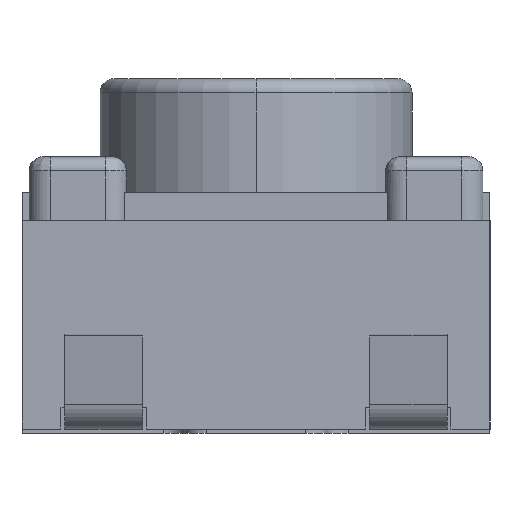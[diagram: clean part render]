
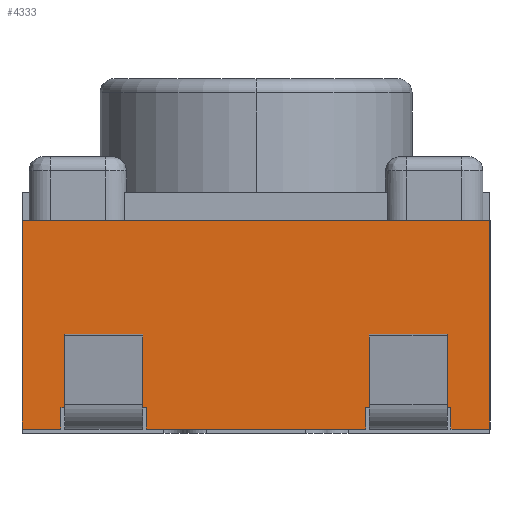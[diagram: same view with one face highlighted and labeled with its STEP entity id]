
A CAD part, left-side view. The second image highlights one B-rep face of the part: STEP entity #4333.
In plain terms, the highlighted planar face has unit normal (-1, 0, 0).
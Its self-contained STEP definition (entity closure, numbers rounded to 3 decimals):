
#1473=DIRECTION('',(0.,-1.,0.));
#1474=VECTOR('',#1473,3.3);
#1475=CARTESIAN_POINT('',(-2.1,1.65,0.));
#1476=LINE('',#1475,#1474);
#1770=DIRECTION('',(0.,0.,1.));
#1771=VECTOR('',#1770,1.47);
#1772=CARTESIAN_POINT('',(-2.1,1.65,-1.47));
#1773=LINE('',#1772,#1771);
#1791=DIRECTION('',(0.,1.,0.));
#1792=VECTOR('',#1791,0.6);
#1793=CARTESIAN_POINT('',(-2.1,-1.375,-1.32));
#1794=LINE('',#1793,#1792);
#1798=DIRECTION('',(0.,0.,1.));
#1799=VECTOR('',#1798,0.15);
#1800=CARTESIAN_POINT('',(-2.1,-0.775,-1.47));
#1801=LINE('',#1800,#1799);
#1805=DIRECTION('',(0.,0.,1.));
#1806=VECTOR('',#1805,0.15);
#1807=CARTESIAN_POINT('',(-2.1,0.775,-1.47));
#1808=LINE('',#1807,#1806);
#1812=DIRECTION('',(0.,1.,0.));
#1813=VECTOR('',#1812,0.6);
#1814=CARTESIAN_POINT('',(-2.1,0.775,-1.32));
#1815=LINE('',#1814,#1813);
#1819=DIRECTION('',(0.,0.,1.));
#1820=VECTOR('',#1819,0.15);
#1821=CARTESIAN_POINT('',(-2.1,1.375,-1.47));
#1822=LINE('',#1821,#1820);
#1826=DIRECTION('',(0.,0.,1.));
#1827=VECTOR('',#1826,0.15);
#1828=CARTESIAN_POINT('',(-2.1,-1.375,-1.47));
#1829=LINE('',#1828,#1827);
#2377=DIRECTION('',(0.,1.,0.));
#2378=VECTOR('',#2377,0.275);
#2379=CARTESIAN_POINT('',(-2.1,1.375,-1.47));
#2380=LINE('',#2379,#2378);
#2391=DIRECTION('',(0.,1.,0.));
#2392=VECTOR('',#2391,1.55);
#2393=CARTESIAN_POINT('',(-2.1,-0.775,-1.47));
#2394=LINE('',#2393,#2392);
#2479=DIRECTION('',(0.,1.,0.));
#2480=VECTOR('',#2479,0.275);
#2481=CARTESIAN_POINT('',(-2.1,-1.65,-1.47));
#2482=LINE('',#2481,#2480);
#2528=DIRECTION('',(0.,0.,-1.));
#2529=VECTOR('',#2528,1.47);
#2530=CARTESIAN_POINT('',(-2.1,-1.65,0.));
#2531=LINE('',#2530,#2529);
#3594=CARTESIAN_POINT('',(-2.1,1.65,0.));
#3596=VERTEX_POINT('',#3594);
#3601=CARTESIAN_POINT('',(-2.1,-1.65,0.));
#3602=VERTEX_POINT('',#3601);
#3623=CARTESIAN_POINT('',(-2.1,1.65,-1.47));
#3624=VERTEX_POINT('',#3623);
#3641=CARTESIAN_POINT('',(-2.1,-1.65,-1.47));
#3642=VERTEX_POINT('',#3641);
#3833=CARTESIAN_POINT('',(-2.1,-1.375,-1.32));
#3834=CARTESIAN_POINT('',(-2.1,-0.775,-1.32));
#3835=VERTEX_POINT('',#3833);
#3836=VERTEX_POINT('',#3834);
#3837=CARTESIAN_POINT('',(-2.1,0.775,-1.32));
#3838=CARTESIAN_POINT('',(-2.1,1.375,-1.32));
#3839=VERTEX_POINT('',#3837);
#3840=VERTEX_POINT('',#3838);
#3841=CARTESIAN_POINT('',(-2.1,1.375,-1.47));
#3842=VERTEX_POINT('',#3841);
#3843=CARTESIAN_POINT('',(-2.1,0.775,-1.47));
#3844=VERTEX_POINT('',#3843);
#3845=CARTESIAN_POINT('',(-2.1,-0.775,-1.47));
#3846=VERTEX_POINT('',#3845);
#3847=CARTESIAN_POINT('',(-2.1,-1.375,-1.47));
#3848=VERTEX_POINT('',#3847);
#4304=CARTESIAN_POINT('',(-2.1,-1.65,-1.5));
#4305=DIRECTION('',(-1.,0.,0.));
#4306=DIRECTION('',(0.,0.,1.));
#4307=AXIS2_PLACEMENT_3D('',#4304,#4305,#4306);
#4308=PLANE('',#4307);
#4310=ORIENTED_EDGE('',*,*,#4309,.T.);
#4312=ORIENTED_EDGE('',*,*,#4311,.F.);
#4314=ORIENTED_EDGE('',*,*,#4313,.T.);
#4316=ORIENTED_EDGE('',*,*,#4315,.T.);
#4318=ORIENTED_EDGE('',*,*,#4317,.T.);
#4320=ORIENTED_EDGE('',*,*,#4319,.F.);
#4322=ORIENTED_EDGE('',*,*,#4321,.T.);
#4323=ORIENTED_EDGE('',*,*,#4286,.T.);
#4324=ORIENTED_EDGE('',*,*,#4192,.T.);
#4326=ORIENTED_EDGE('',*,*,#4325,.T.);
#4328=ORIENTED_EDGE('',*,*,#4327,.T.);
#4330=ORIENTED_EDGE('',*,*,#4329,.T.);
#4331=EDGE_LOOP('',(#4310,#4312,#4314,#4316,#4318,#4320,#4322,#4323,#4324,#4326,
#4328,#4330));
#4332=FACE_OUTER_BOUND('',#4331,.F.);
#4192=EDGE_CURVE('',#3596,#3602,#1476,.T.);
#4286=EDGE_CURVE('',#3624,#3596,#1773,.T.);
#4309=EDGE_CURVE('',#3835,#3836,#1794,.T.);
#4311=EDGE_CURVE('',#3846,#3836,#1801,.T.);
#4313=EDGE_CURVE('',#3846,#3844,#2394,.T.);
#4315=EDGE_CURVE('',#3844,#3839,#1808,.T.);
#4317=EDGE_CURVE('',#3839,#3840,#1815,.T.);
#4319=EDGE_CURVE('',#3842,#3840,#1822,.T.);
#4321=EDGE_CURVE('',#3842,#3624,#2380,.T.);
#4325=EDGE_CURVE('',#3602,#3642,#2531,.T.);
#4327=EDGE_CURVE('',#3642,#3848,#2482,.T.);
#4329=EDGE_CURVE('',#3848,#3835,#1829,.T.);
#4333=ADVANCED_FACE('',(#4332),#4308,.T.);
